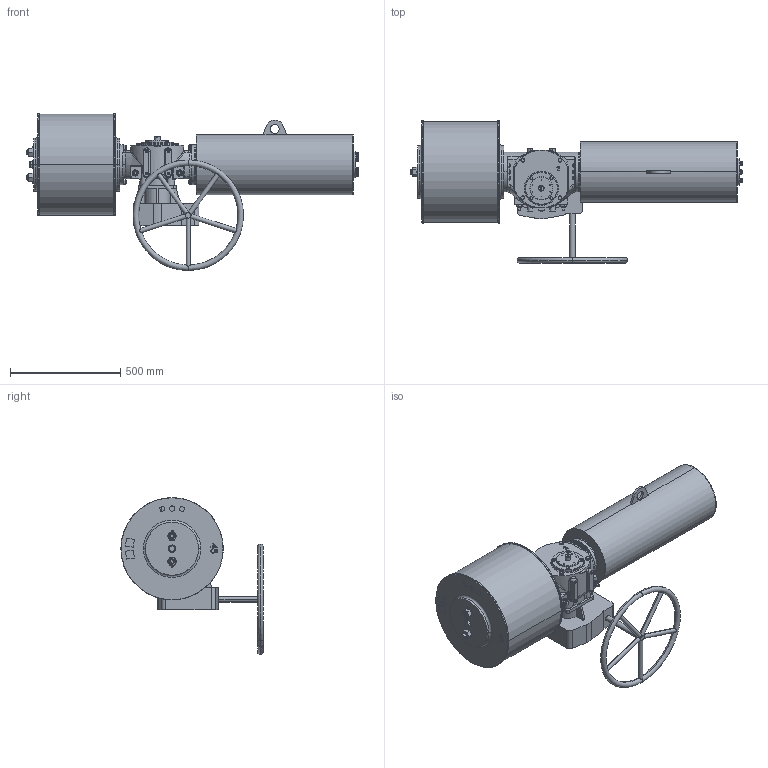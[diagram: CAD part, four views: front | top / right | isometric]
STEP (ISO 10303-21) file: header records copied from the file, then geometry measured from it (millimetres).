
FILE_DESCRIPTION (( 'STEP AP203' ), '1' );
FILE_NAME ('VTS2-450-SR-MW-FC.STEP', '2023-01-01T08:33:23', ( '' ), ( '' ), 'SwSTEP 2.0', 'SolidWorks 2020', '' );
FILE_SCHEMA (( 'CONFIG_CONTROL_DESIGN' ));
Length unit declared in the file: millimetre
Products named in the file (1): VTS2-450-SR-MW-FC
Bounding box: 1503.78 x 644.39 x 711 mm (x, y, z)
Volume: 122838429.2 mm3; surface area: 2894697.4 mm2
Topology: 27 solids, 29 shells, 2202 faces, 5435 edges, 3353 vertices
Faces by surface type: plane 837, cylinder 672, cone 539, bspline 142, torus 12
Entity records: 79433 total; most frequent: CARTESIAN_POINT 28501, ORIENTED_EDGE 10730, DIRECTION 10565, EDGE_CURVE 5365, AXIS2_PLACEMENT_3D 4144, VERTEX_POINT 3353, EDGE_LOOP 2428, VECTOR 2277
